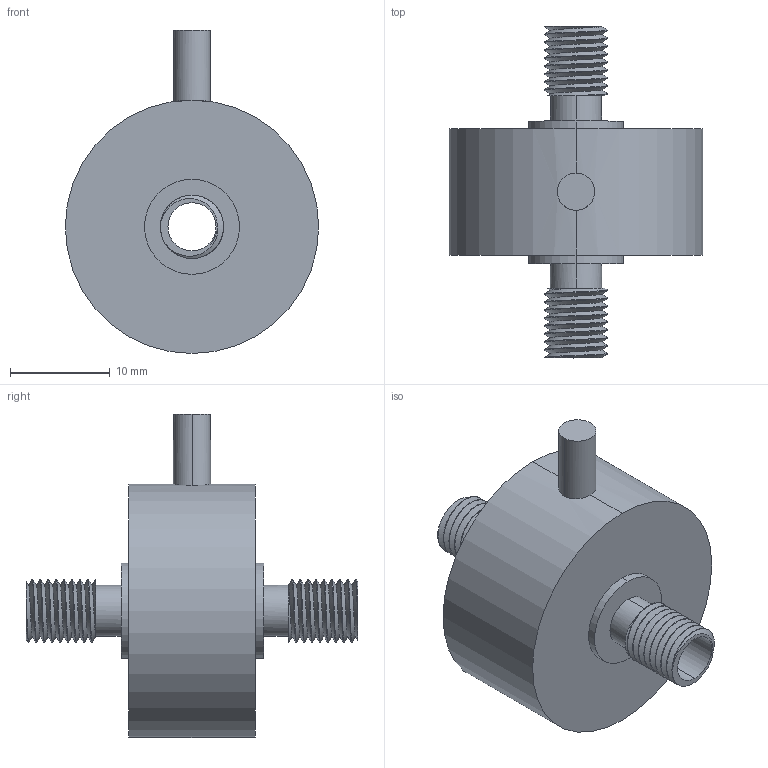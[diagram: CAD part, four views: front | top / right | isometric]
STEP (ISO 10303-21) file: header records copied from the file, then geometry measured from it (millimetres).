
FILE_DESCRIPTION (( 'STEP AP214' ), '1' );
FILE_NAME ('FINAL ASBY SS1383-300LB.STEP', '2024-08-12T15:08:10', ( '' ), ( '' ), 'SwSTEP 2.0', 'SolidWorks 2008', '' );
FILE_SCHEMA (( 'AUTOMOTIVE_DESIGN' ));
Length unit declared in the file: inch
Products named in the file (1): FINAL ASBY SS1383-300LB
Bounding box: 25.4 x 33.27 x 32.38 mm (x, y, z)
Volume: 6485.5 mm3; surface area: 3213 mm2
Topology: 1 solids, 1 shells, 68 faces, 182 edges, 120 vertices
Faces by surface type: cylinder 52, plane 12, bspline 4
Entity records: 4019 total; most frequent: CARTESIAN_POINT 2525, ORIENTED_EDGE 364, DIRECTION 256, EDGE_CURVE 182, VERTEX_POINT 120, AXIS2_PLACEMENT_3D 101, EDGE_LOOP 74, ADVANCED_FACE 68
